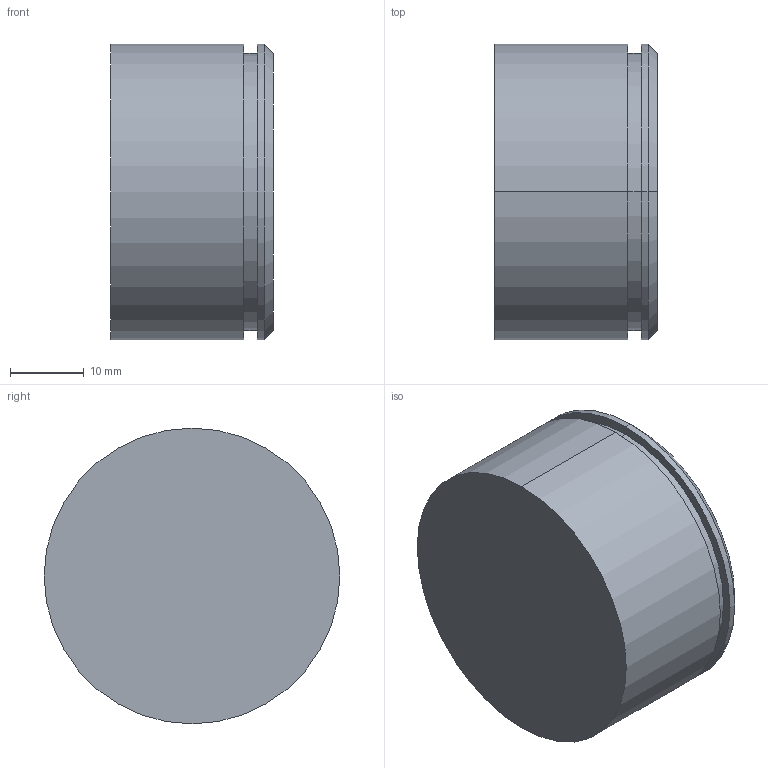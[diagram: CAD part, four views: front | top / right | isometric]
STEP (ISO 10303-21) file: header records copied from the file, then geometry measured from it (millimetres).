
FILE_DESCRIPTION (( 'STEP AP203' ), '1' );
FILE_NAME ('S5-40.STEP', '2002-08-16T10:51:00', ( '.' ), ( '.' ), 'SwSTEP 2.0', 'SolidWorks 2001340', '' );
FILE_SCHEMA (( 'CONFIG_CONTROL_DESIGN' ));
Length unit declared in the file: millimetre
Products named in the file (1): S5-40
Bounding box: 22 x 40 x 40 mm (x, y, z)
Volume: 27268.4 mm3; surface area: 5473.6 mm2
Topology: 1 solids, 1 shells, 12 faces, 22 edges, 14 vertices
Faces by surface type: cylinder 6, plane 4, cone 2
Entity records: 381 total; most frequent: DIRECTION 62, CARTESIAN_POINT 49, ORIENTED_EDGE 44, AXIS2_PLACEMENT_3D 27, EDGE_CURVE 22, VERTEX_POINT 14, EDGE_LOOP 14, CIRCLE 14
